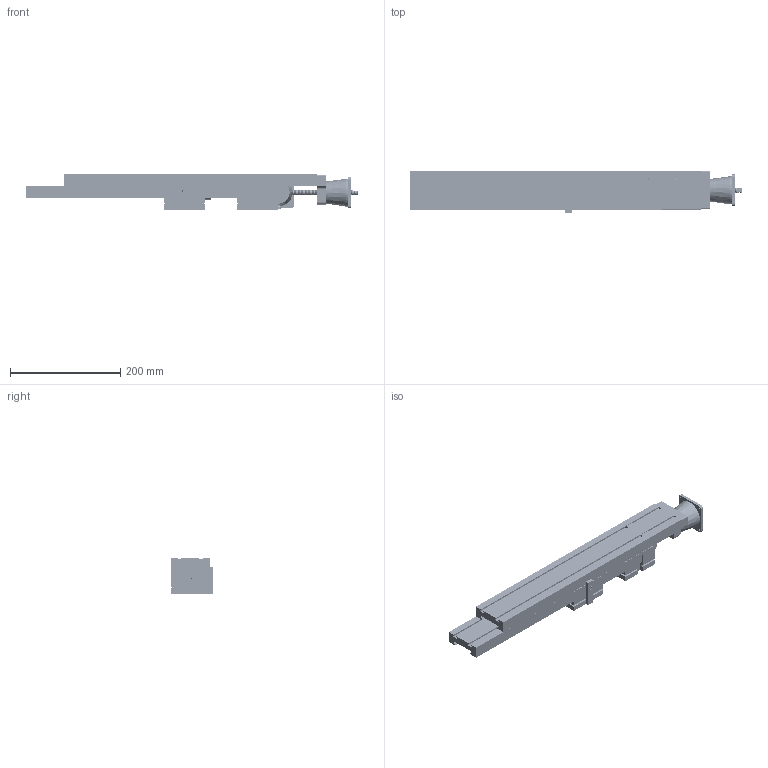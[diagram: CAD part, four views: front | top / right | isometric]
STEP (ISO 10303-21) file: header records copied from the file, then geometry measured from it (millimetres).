
FILE_DESCRIPTION( ( 'Unknown' ), '1' );
FILE_NAME( 'C:/Users/dragon/Desktop/65901/iges step/6552-18 BLS CNC ready.stp', 'Unknown', ( 'Unknown' ), ( 'Unknown' ), 'XStep 1.0', 'Unknown', ' ' );
FILE_SCHEMA( ( 'CONFIG_CONTROL_DESIGN' ) );
Length unit declared in the file: millimetre
Products named in the file (11): Assem1; ball leadscrew -18 in ; 67101 ND; 65901 no details; 65501-18; 58511; 58508 R-1; 65502; 40310; 40340; 67111
Bounding box: 601.29 x 77.13 x 64.21 mm (x, y, z)
Volume: 1854057.7 mm3; surface area: 377352.8 mm2
Topology: 27 solids, 27 shells, 2912 faces, 7515 edges, 4705 vertices
Faces by surface type: cylinder 1657, cone 891, plane 338, bspline 26
Full cylindrical faces by diameter (mm): 3.468 x8, 4.039 x4, 4.826 x2, 5.258 x8, 8.128 x2, 50.8 x2
Entity records: 46716 total; most frequent: CARTESIAN_POINT 27056, ORIENTED_EDGE 3882, DIRECTION 3540, EDGE_CURVE 1941, AXIS2_PLACEMENT_3D 1433, VERTEX_POINT 1400, EDGE_LOOP 1316, FACE_OUTER_BOUND 951
